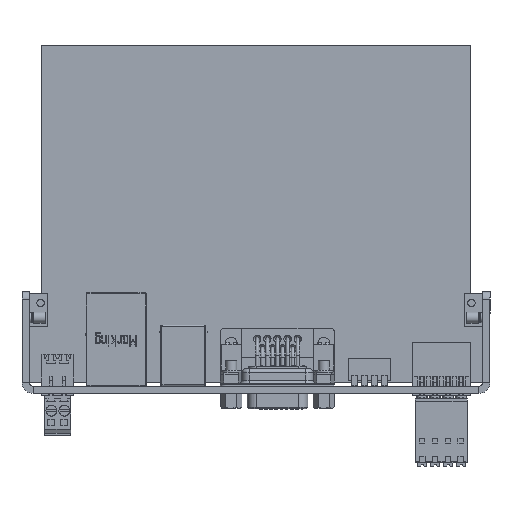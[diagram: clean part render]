
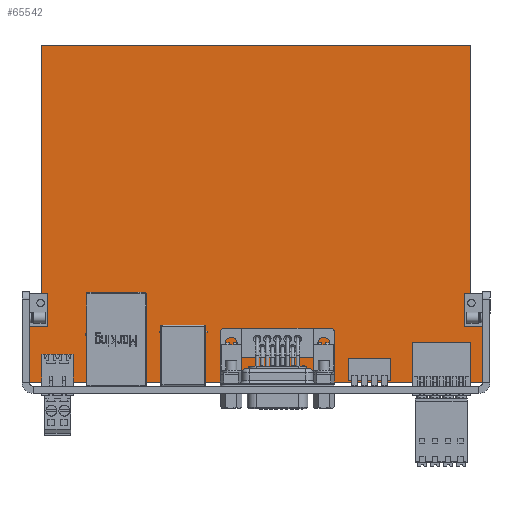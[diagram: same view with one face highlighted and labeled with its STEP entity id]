
A CAD part, front view. The second image highlights one B-rep face of the part: STEP entity #65542.
In plain terms, the highlighted planar face has unit normal (0, -1, 0) as drawn and (0, 0, 1) by its records, which use the part's own axes.
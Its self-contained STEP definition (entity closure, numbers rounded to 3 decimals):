
#3168=FACE_BOUND('',#9848,.T.);
#3169=FACE_BOUND('',#9849,.T.);
#3531=PLANE('',#69765);
#6275=FACE_OUTER_BOUND('',#9847,.T.);
#9847=EDGE_LOOP('',(#46503,#46504,#46505,#46506,#46507,#46508,#46509,#46510));
#9848=EDGE_LOOP('',(#46511));
#9849=EDGE_LOOP('',(#46512));
#13758=LINE('',#94288,#21324);
#13762=LINE('',#94296,#21328);
#13765=LINE('',#94302,#21331);
#13768=LINE('',#94308,#21334);
#13771=LINE('',#94314,#21337);
#13774=LINE('',#94320,#21340);
#13777=LINE('',#94326,#21343);
#13780=LINE('',#94331,#21346);
#21324=VECTOR('',#75625,10.);
#21328=VECTOR('',#75631,10.);
#21331=VECTOR('',#75636,10.);
#21334=VECTOR('',#75641,10.);
#21337=VECTOR('',#75646,10.);
#21340=VECTOR('',#75651,10.);
#21343=VECTOR('',#75656,10.);
#21346=VECTOR('',#75661,10.);
#28770=CIRCLE('',#69753,1.25);
#28772=CIRCLE('',#69756,1.25);
#30362=VERTEX_POINT('',#94276);
#30364=VERTEX_POINT('',#94282);
#30365=VERTEX_POINT('',#94286);
#30366=VERTEX_POINT('',#94287);
#30369=VERTEX_POINT('',#94295);
#30371=VERTEX_POINT('',#94301);
#30373=VERTEX_POINT('',#94307);
#30375=VERTEX_POINT('',#94313);
#30377=VERTEX_POINT('',#94319);
#30379=VERTEX_POINT('',#94325);
#36655=EDGE_CURVE('',#30362,#30362,#28770,.T.);
#36658=EDGE_CURVE('',#30364,#30364,#28772,.T.);
#36659=EDGE_CURVE('',#30365,#30366,#13758,.T.);
#36663=EDGE_CURVE('',#30366,#30369,#13762,.T.);
#36666=EDGE_CURVE('',#30369,#30371,#13765,.T.);
#36669=EDGE_CURVE('',#30371,#30373,#13768,.T.);
#36672=EDGE_CURVE('',#30373,#30375,#13771,.T.);
#36675=EDGE_CURVE('',#30375,#30377,#13774,.T.);
#36678=EDGE_CURVE('',#30377,#30379,#13777,.T.);
#36681=EDGE_CURVE('',#30379,#30365,#13780,.T.);
#46503=ORIENTED_EDGE('',*,*,#36681,.T.);
#46504=ORIENTED_EDGE('',*,*,#36659,.T.);
#46505=ORIENTED_EDGE('',*,*,#36663,.T.);
#46506=ORIENTED_EDGE('',*,*,#36666,.T.);
#46507=ORIENTED_EDGE('',*,*,#36669,.T.);
#46508=ORIENTED_EDGE('',*,*,#36672,.T.);
#46509=ORIENTED_EDGE('',*,*,#36675,.T.);
#46510=ORIENTED_EDGE('',*,*,#36678,.T.);
#46511=ORIENTED_EDGE('',*,*,#36658,.T.);
#46512=ORIENTED_EDGE('',*,*,#36655,.T.);
#65542=ADVANCED_FACE('',(#6275,#3168,#3169),#3531,.T.);
#69753=AXIS2_PLACEMENT_3D('',#94278,#75614,#75615);
#69756=AXIS2_PLACEMENT_3D('',#94284,#75621,#75622);
#69765=AXIS2_PLACEMENT_3D('',#94333,#75663,#75664);
#75614=DIRECTION('center_axis',(0.,0.,-1.));
#75615=DIRECTION('ref_axis',(-1.,0.,0.));
#75621=DIRECTION('center_axis',(0.,0.,-1.));
#75622=DIRECTION('ref_axis',(-1.,0.,0.));
#75625=DIRECTION('',(1.,0.,0.));
#75631=DIRECTION('',(0.,1.,0.));
#75636=DIRECTION('',(1.,0.,0.));
#75641=DIRECTION('',(0.,1.,0.));
#75646=DIRECTION('',(-1.,0.,0.));
#75651=DIRECTION('',(0.,-1.,0.));
#75656=DIRECTION('',(1.,0.,0.));
#75661=DIRECTION('',(0.,-1.,0.));
#75663=DIRECTION('center_axis',(0.,0.,1.));
#75664=DIRECTION('ref_axis',(1.,0.,0.));
#94276=CARTESIAN_POINT('',(59.45,24.,0.));
#94278=CARTESIAN_POINT('Origin',(58.2,24.,0.));
#94282=CARTESIAN_POINT('',(-56.95,24.,0.));
#94284=CARTESIAN_POINT('Origin',(-58.2,24.,0.));
#94286=CARTESIAN_POINT('',(-58.,-45.5,0.));
#94287=CARTESIAN_POINT('',(58.,-45.5,0.));
#94288=CARTESIAN_POINT('',(-58.,-45.5,0.));
#94295=CARTESIAN_POINT('',(58.,21.5,0.));
#94296=CARTESIAN_POINT('',(58.,-45.5,0.));
#94301=CARTESIAN_POINT('',(61.2,21.5,0.));
#94302=CARTESIAN_POINT('',(58.,21.5,0.));
#94307=CARTESIAN_POINT('',(61.2,45.5,0.));
#94308=CARTESIAN_POINT('',(61.2,21.5,0.));
#94313=CARTESIAN_POINT('',(-61.2,45.5,0.));
#94314=CARTESIAN_POINT('',(61.2,45.5,0.));
#94319=CARTESIAN_POINT('',(-61.2,21.5,0.));
#94320=CARTESIAN_POINT('',(-61.2,45.5,0.));
#94325=CARTESIAN_POINT('',(-58.,21.5,0.));
#94326=CARTESIAN_POINT('',(-61.2,21.5,0.));
#94331=CARTESIAN_POINT('',(-58.,21.5,0.));
#94333=CARTESIAN_POINT('Origin',(0.,0.,0.));
